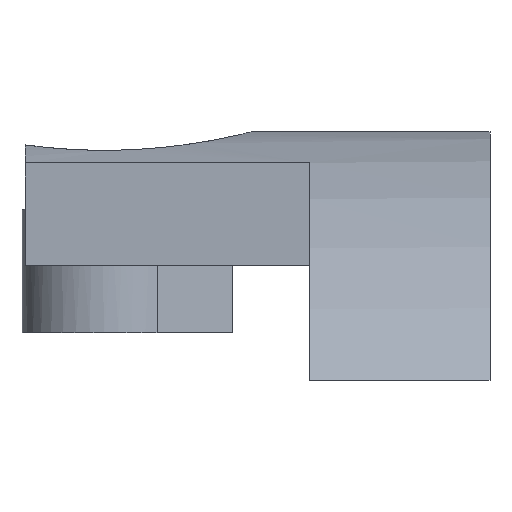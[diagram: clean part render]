
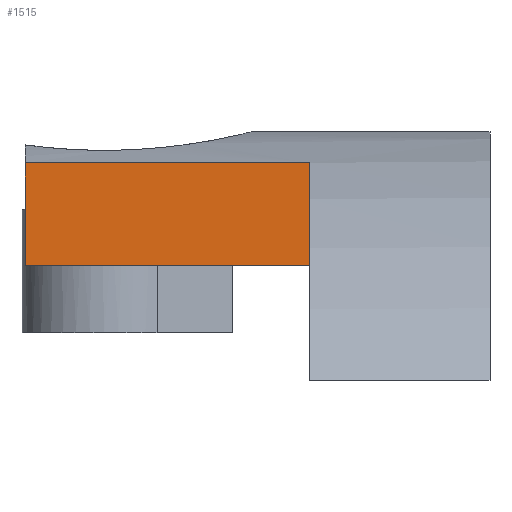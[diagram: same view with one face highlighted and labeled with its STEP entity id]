
A CAD part, front view. The second image highlights one B-rep face of the part: STEP entity #1515.
In plain terms, the highlighted planar face has unit normal (0, -1, 0).
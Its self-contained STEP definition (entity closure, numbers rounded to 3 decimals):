
#33 = CYLINDRICAL_SURFACE('',#34,18.85);
#34 = AXIS2_PLACEMENT_3D('',#35,#36,#37);
#35 = CARTESIAN_POINT('',(194.,0.,0.));
#36 = DIRECTION('',(1.,0.,0.));
#37 = DIRECTION('',(-0.,0.,1.));
#98 = PLANE('',#99);
#99 = AXIS2_PLACEMENT_3D('',#100,#101,#102);
#100 = CARTESIAN_POINT('',(185.,0.,0.));
#101 = DIRECTION('',(1.,0.,0.));
#102 = DIRECTION('',(-0.,0.,1.));
#368 = VERTEX_POINT('',#369);
#369 = CARTESIAN_POINT('',(185.,-6.,17.87));
#390 = EDGE_CURVE('',#368,#391,#393,.T.);
#391 = VERTEX_POINT('',#392);
#392 = CARTESIAN_POINT('',(194.,-6.,17.87));
#393 = SURFACE_CURVE('',#394,(#398,#404),.PCURVE_S1.);
#394 = LINE('',#395,#396);
#395 = CARTESIAN_POINT('',(185.,-6.,17.87));
#396 = VECTOR('',#397,1.);
#397 = DIRECTION('',(1.,0.,0.));
#398 = PCURVE('',#33,#399);
#399 = DEFINITIONAL_REPRESENTATION('',(#400),#403);
#400 = B_SPLINE_CURVE_WITH_KNOTS('',1,(#401,#402),.UNSPECIFIED.,.F.,.F.,
  (2,2),(0.,9.),.PIECEWISE_BEZIER_KNOTS.);
#401 = CARTESIAN_POINT('',(6.607,-9.));
#402 = CARTESIAN_POINT('',(6.607,0.));
#403 = ( GEOMETRIC_REPRESENTATION_CONTEXT(2) 
PARAMETRIC_REPRESENTATION_CONTEXT() REPRESENTATION_CONTEXT('2D SPACE',''
  ) );
#404 = PCURVE('',#405,#410);
#405 = PLANE('',#406);
#406 = AXIS2_PLACEMENT_3D('',#407,#408,#409);
#407 = CARTESIAN_POINT('',(185.,-6.,0.));
#408 = DIRECTION('',(-0.,1.,0.));
#409 = DIRECTION('',(0.,0.,1.));
#410 = DEFINITIONAL_REPRESENTATION('',(#411),#414);
#411 = B_SPLINE_CURVE_WITH_KNOTS('',1,(#412,#413),.UNSPECIFIED.,.F.,.F.,
  (2,2),(0.,9.),.PIECEWISE_BEZIER_KNOTS.);
#412 = CARTESIAN_POINT('',(17.87,0.));
#413 = CARTESIAN_POINT('',(17.87,9.));
#414 = ( GEOMETRIC_REPRESENTATION_CONTEXT(2) 
PARAMETRIC_REPRESENTATION_CONTEXT() REPRESENTATION_CONTEXT('2D SPACE',''
  ) );
#432 = PLANE('',#433);
#433 = AXIS2_PLACEMENT_3D('',#434,#435,#436);
#434 = CARTESIAN_POINT('',(194.,0.,0.));
#435 = DIRECTION('',(1.,0.,0.));
#436 = DIRECTION('',(-0.,0.,1.));
#568 = CYLINDRICAL_SURFACE('',#569,15.8);
#569 = AXIS2_PLACEMENT_3D('',#570,#571,#572);
#570 = CARTESIAN_POINT('',(193.,0.,0.));
#571 = DIRECTION('',(1.,0.,0.));
#572 = DIRECTION('',(-0.,0.,1.));
#928 = VERTEX_POINT('',#929);
#929 = CARTESIAN_POINT('',(185.,-6.,14.616));
#950 = EDGE_CURVE('',#928,#951,#953,.T.);
#951 = VERTEX_POINT('',#952);
#952 = CARTESIAN_POINT('',(194.,-6.,14.616));
#953 = SURFACE_CURVE('',#954,(#958,#964),.PCURVE_S1.);
#954 = LINE('',#955,#956);
#955 = CARTESIAN_POINT('',(184.,-6.,14.616));
#956 = VECTOR('',#957,1.);
#957 = DIRECTION('',(1.,0.,0.));
#958 = PCURVE('',#568,#959);
#959 = DEFINITIONAL_REPRESENTATION('',(#960),#963);
#960 = B_SPLINE_CURVE_WITH_KNOTS('',1,(#961,#962),.UNSPECIFIED.,.F.,.F.,
  (2,2),(1.,10.),.PIECEWISE_BEZIER_KNOTS.);
#961 = CARTESIAN_POINT('',(6.673,-8.));
#962 = CARTESIAN_POINT('',(6.673,1.));
#963 = ( GEOMETRIC_REPRESENTATION_CONTEXT(2) 
PARAMETRIC_REPRESENTATION_CONTEXT() REPRESENTATION_CONTEXT('2D SPACE',''
  ) );
#964 = PCURVE('',#405,#965);
#965 = DEFINITIONAL_REPRESENTATION('',(#966),#969);
#966 = B_SPLINE_CURVE_WITH_KNOTS('',1,(#967,#968),.UNSPECIFIED.,.F.,.F.,
  (2,2),(1.,10.),.PIECEWISE_BEZIER_KNOTS.);
#967 = CARTESIAN_POINT('',(14.616,0.));
#968 = CARTESIAN_POINT('',(14.616,9.));
#969 = ( GEOMETRIC_REPRESENTATION_CONTEXT(2) 
PARAMETRIC_REPRESENTATION_CONTEXT() REPRESENTATION_CONTEXT('2D SPACE',''
  ) );
#1492 = EDGE_CURVE('',#951,#391,#1493,.T.);
#1493 = SURFACE_CURVE('',#1494,(#1498,#1505),.PCURVE_S1.);
#1494 = LINE('',#1495,#1496);
#1495 = CARTESIAN_POINT('',(194.,-6.,0.));
#1496 = VECTOR('',#1497,1.);
#1497 = DIRECTION('',(0.,0.,1.));
#1498 = PCURVE('',#432,#1499);
#1499 = DEFINITIONAL_REPRESENTATION('',(#1500),#1504);
#1500 = LINE('',#1501,#1502);
#1501 = CARTESIAN_POINT('',(0.,6.));
#1502 = VECTOR('',#1503,1.);
#1503 = DIRECTION('',(1.,0.));
#1504 = ( GEOMETRIC_REPRESENTATION_CONTEXT(2) 
PARAMETRIC_REPRESENTATION_CONTEXT() REPRESENTATION_CONTEXT('2D SPACE',''
  ) );
#1505 = PCURVE('',#405,#1506);
#1506 = DEFINITIONAL_REPRESENTATION('',(#1507),#1511);
#1507 = LINE('',#1508,#1509);
#1508 = CARTESIAN_POINT('',(0.,9.));
#1509 = VECTOR('',#1510,1.);
#1510 = DIRECTION('',(1.,0.));
#1511 = ( GEOMETRIC_REPRESENTATION_CONTEXT(2) 
PARAMETRIC_REPRESENTATION_CONTEXT() REPRESENTATION_CONTEXT('2D SPACE',''
  ) );
#1515 = ADVANCED_FACE('',(#1516),#405,.F.);
#1516 = FACE_BOUND('',#1517,.F.);
#1517 = EDGE_LOOP('',(#1518,#1519,#1520,#1541));
#1518 = ORIENTED_EDGE('',*,*,#1492,.F.);
#1519 = ORIENTED_EDGE('',*,*,#950,.F.);
#1520 = ORIENTED_EDGE('',*,*,#1521,.T.);
#1521 = EDGE_CURVE('',#928,#368,#1522,.T.);
#1522 = SURFACE_CURVE('',#1523,(#1527,#1534),.PCURVE_S1.);
#1523 = LINE('',#1524,#1525);
#1524 = CARTESIAN_POINT('',(185.,-6.,0.));
#1525 = VECTOR('',#1526,1.);
#1526 = DIRECTION('',(0.,0.,1.));
#1527 = PCURVE('',#405,#1528);
#1528 = DEFINITIONAL_REPRESENTATION('',(#1529),#1533);
#1529 = LINE('',#1530,#1531);
#1530 = CARTESIAN_POINT('',(0.,0.));
#1531 = VECTOR('',#1532,1.);
#1532 = DIRECTION('',(1.,0.));
#1533 = ( GEOMETRIC_REPRESENTATION_CONTEXT(2) 
PARAMETRIC_REPRESENTATION_CONTEXT() REPRESENTATION_CONTEXT('2D SPACE',''
  ) );
#1534 = PCURVE('',#98,#1535);
#1535 = DEFINITIONAL_REPRESENTATION('',(#1536),#1540);
#1536 = LINE('',#1537,#1538);
#1537 = CARTESIAN_POINT('',(0.,6.));
#1538 = VECTOR('',#1539,1.);
#1539 = DIRECTION('',(1.,0.));
#1540 = ( GEOMETRIC_REPRESENTATION_CONTEXT(2) 
PARAMETRIC_REPRESENTATION_CONTEXT() REPRESENTATION_CONTEXT('2D SPACE',''
  ) );
#1541 = ORIENTED_EDGE('',*,*,#390,.T.);
